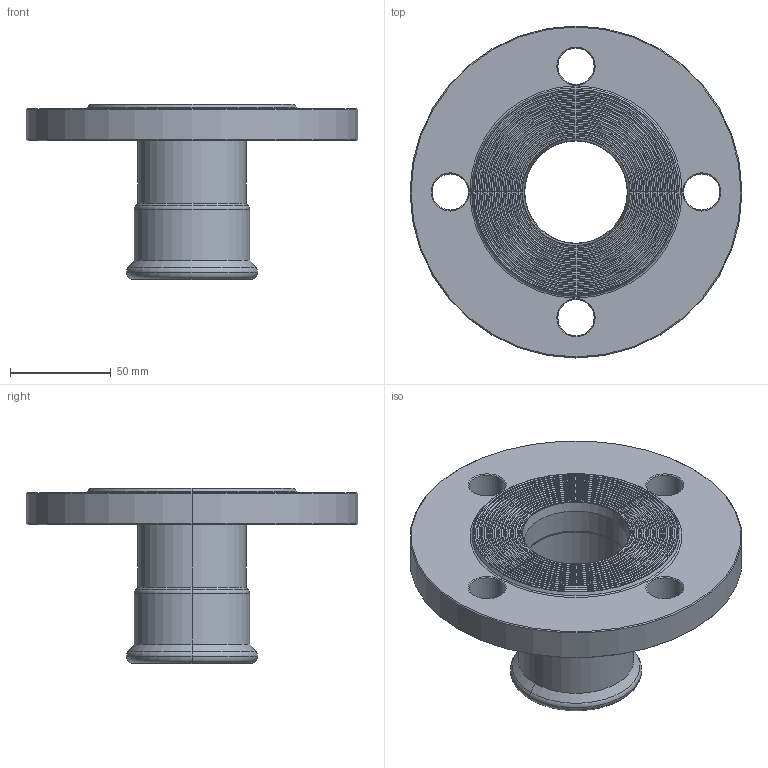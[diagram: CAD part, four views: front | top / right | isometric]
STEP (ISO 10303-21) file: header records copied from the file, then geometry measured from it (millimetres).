
FILE_DESCRIPTION(('CoCreate Modeling STEP Export'),'2;1');
FILE_NAME('C1426 54.stp','2014-11-12T15:28:39',(''),(''),'CoCreate Modeling STEP processor for AP214 (Solid Model)','CoCreate Modeling 17.00A 17-Jun-2010 (C) Parametric Technology GmbH','');
FILE_SCHEMA(('AUTOMOTIVE_DESIGN { 1 0 10303 214 1 1 1 1 }'));
Length unit declared in the file: millimetre
Products named in the file (1): C1426_54
Bounding box: 165 x 165 x 87 mm (x, y, z)
Volume: 325996.9 mm3; surface area: 76794.2 mm2
Topology: 1 solids, 1 shells, 162 faces, 332 edges, 190 vertices
Faces by surface type: torus 70, cone 46, cylinder 26, plane 20
Entity records: 3371 total; most frequent: ORIENTED_EDGE 664, DIRECTION 528, CARTESIAN_POINT 490, EDGE_CURVE 332, AXIS2_PLACEMENT_3D 228, VERTEX_POINT 190, EDGE_LOOP 190, CIRCLE 165
